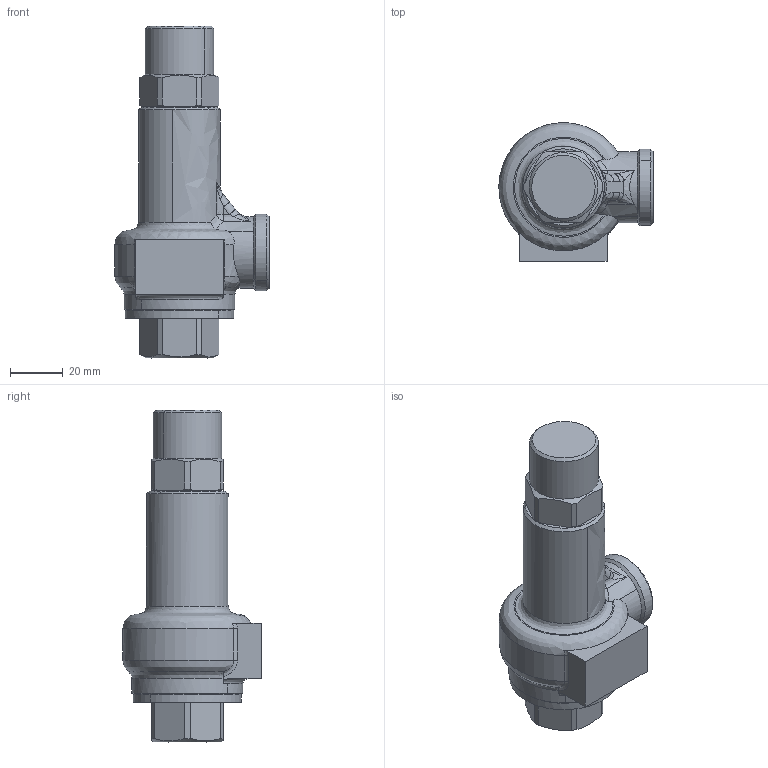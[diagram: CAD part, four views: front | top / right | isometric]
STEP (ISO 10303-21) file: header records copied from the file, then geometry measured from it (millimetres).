
FILE_DESCRIPTION((''),'2;1');
FILE_NAME('','2019-07-18T18:44:35',(''),(''),'','CADfix','');
FILE_SCHEMA(('AUTOMOTIVE_DESIGN { 1 0 10303 214 1 1 1 1 }'));
Length unit declared in the file: millimetre
Bounding box: 58.49 x 52.49 x 125.8 mm (x, y, z)
Volume: 117473.7 mm3; surface area: 21049.1 mm2
Topology: 1 solids, 1 shells, 115 faces, 379 edges, 269 vertices
Faces by surface type: bspline 115
Entity records: 9883 total; most frequent: CARTESIAN_POINT 7386, ORIENTED_EDGE 754, EDGE_CURVE 377, STYLED_ITEM 335, VERTEX_POINT 269, B_SPLINE_CURVE_WITH_KNOTS 249, EDGE_LOOP 120, FACE_OUTER_BOUND 115
